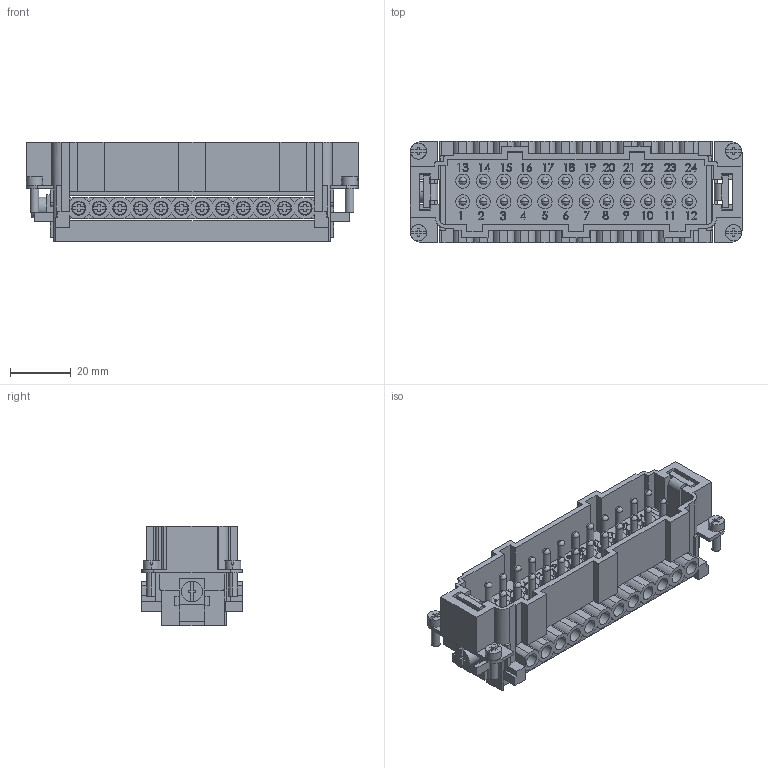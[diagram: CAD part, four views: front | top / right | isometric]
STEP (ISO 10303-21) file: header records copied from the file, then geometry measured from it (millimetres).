
FILE_DESCRIPTION (( 'STEP AP214' ), '1' );
FILE_NAME ('CNEM-24TX.STEP', '2006-12-15T19:04:22', ( 'Mencom' ), ( 'Mencom Corporation' ), 'SwSTEP 2.0', 'SolidWorks 2006104', '' );
FILE_SCHEMA (( 'AUTOMOTIVE_DESIGN' ));
Length unit declared in the file: inch
Products named in the file (1): CNEM-24TX
Bounding box: 109.73 x 33.38 x 32.89 mm (x, y, z)
Volume: 45891.3 mm3; surface area: 38865.4 mm2
Topology: 5 solids, 5 shells, 2196 faces, 5823 edges, 3856 vertices
Faces by surface type: plane 1328, cylinder 432, bspline 388, torus 48
Entity records: 121945 total; most frequent: CARTESIAN_POINT 50000, ORIENTED_EDGE 11646, DIRECTION 9771, EDGE_CURVE 5823, VECTOR 3941, LINE 3941, VERTEX_POINT 3856, AXIS2_PLACEMENT_3D 2915
